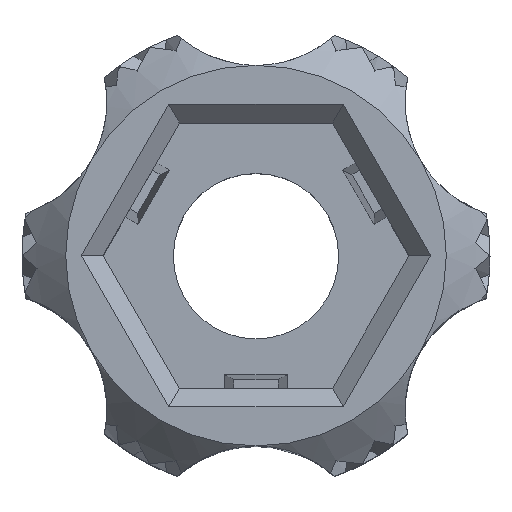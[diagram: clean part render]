
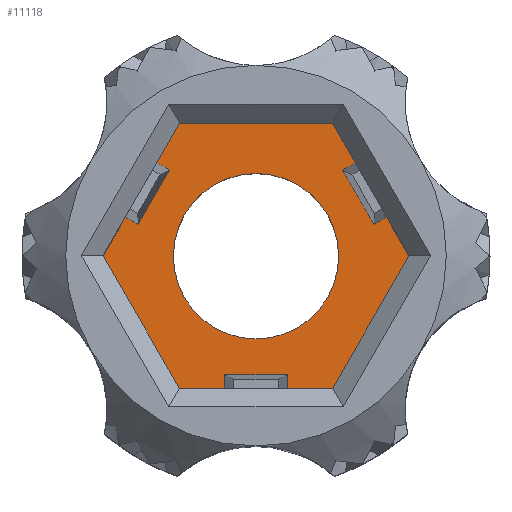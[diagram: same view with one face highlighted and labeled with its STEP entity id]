
A CAD part, top view. The second image highlights one B-rep face of the part: STEP entity #11118.
In plain terms, the highlighted planar face has unit normal (0, 0, 1).
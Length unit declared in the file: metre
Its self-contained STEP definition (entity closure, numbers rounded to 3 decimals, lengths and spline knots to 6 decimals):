
#733=LINE('',#18515,#963);
#737=LINE('',#18523,#967);
#740=LINE('',#18529,#970);
#743=LINE('',#18535,#973);
#747=LINE('',#18543,#977);
#750=LINE('',#18549,#980);
#753=LINE('',#18555,#983);
#757=LINE('',#18563,#987);
#759=LINE('',#18566,#989);
#760=LINE('',#18568,#990);
#761=LINE('',#18570,#991);
#762=LINE('',#18572,#992);
#763=LINE('',#18573,#993);
#764=LINE('',#18575,#994);
#765=LINE('',#18577,#995);
#766=LINE('',#18578,#996);
#767=LINE('',#18580,#997);
#768=LINE('',#18582,#998);
#963=VECTOR('',#12366,1.);
#967=VECTOR('',#12370,1.);
#970=VECTOR('',#12375,1.);
#973=VECTOR('',#12380,1.);
#977=VECTOR('',#12384,1.);
#980=VECTOR('',#12389,1.);
#983=VECTOR('',#12394,1.);
#987=VECTOR('',#12398,1.);
#989=VECTOR('',#12402,1.);
#990=VECTOR('',#12405,1.);
#991=VECTOR('',#12406,1.);
#992=VECTOR('',#12407,1.);
#993=VECTOR('',#12408,1.);
#994=VECTOR('',#12409,1.);
#995=VECTOR('',#12410,1.);
#996=VECTOR('',#12411,1.);
#997=VECTOR('',#12412,1.);
#998=VECTOR('',#12413,1.);
#1853=PLANE('',#11883);
#1951=CIRCLE('',#11875,0.00265);
#2846=ORIENTED_EDGE('',*,*,#6306,.F.);
#2847=ORIENTED_EDGE('',*,*,#6307,.T.);
#2848=ORIENTED_EDGE('',*,*,#6308,.T.);
#2849=ORIENTED_EDGE('',*,*,#6289,.T.);
#2850=ORIENTED_EDGE('',*,*,#6296,.T.);
#2851=ORIENTED_EDGE('',*,*,#6303,.T.);
#2852=ORIENTED_EDGE('',*,*,#6309,.F.);
#2853=ORIENTED_EDGE('',*,*,#6310,.T.);
#2854=ORIENTED_EDGE('',*,*,#6311,.T.);
#2855=ORIENTED_EDGE('',*,*,#6299,.T.);
#2856=ORIENTED_EDGE('',*,*,#6305,.T.);
#2857=ORIENTED_EDGE('',*,*,#6283,.T.);
#2858=ORIENTED_EDGE('',*,*,#6312,.F.);
#2859=ORIENTED_EDGE('',*,*,#6313,.T.);
#2860=ORIENTED_EDGE('',*,*,#6314,.T.);
#2861=ORIENTED_EDGE('',*,*,#6279,.T.);
#2862=ORIENTED_EDGE('',*,*,#6286,.T.);
#2863=ORIENTED_EDGE('',*,*,#6293,.T.);
#2864=ORIENTED_EDGE('',*,*,#6269,.F.);
#6269=EDGE_CURVE('',#7922,#7922,#1951,.T.);
#6279=EDGE_CURVE('',#7933,#7932,#733,.T.);
#6283=EDGE_CURVE('',#7929,#7936,#737,.T.);
#6286=EDGE_CURVE('',#7932,#7938,#740,.T.);
#6289=EDGE_CURVE('',#7941,#7940,#743,.T.);
#6293=EDGE_CURVE('',#7938,#7944,#747,.T.);
#6296=EDGE_CURVE('',#7940,#7946,#750,.T.);
#6299=EDGE_CURVE('',#7949,#7948,#753,.T.);
#6303=EDGE_CURVE('',#7946,#7952,#757,.T.);
#6305=EDGE_CURVE('',#7948,#7929,#759,.T.);
#6306=EDGE_CURVE('',#7953,#7944,#760,.T.);
#6307=EDGE_CURVE('',#7953,#7954,#761,.T.);
#6308=EDGE_CURVE('',#7954,#7941,#762,.T.);
#6309=EDGE_CURVE('',#7955,#7952,#763,.T.);
#6310=EDGE_CURVE('',#7955,#7956,#764,.T.);
#6311=EDGE_CURVE('',#7956,#7949,#765,.T.);
#6312=EDGE_CURVE('',#7957,#7936,#766,.T.);
#6313=EDGE_CURVE('',#7957,#7958,#767,.T.);
#6314=EDGE_CURVE('',#7958,#7933,#768,.T.);
#7922=VERTEX_POINT('',#18493);
#7929=VERTEX_POINT('',#18509);
#7932=VERTEX_POINT('',#18514);
#7933=VERTEX_POINT('',#18516);
#7936=VERTEX_POINT('',#18522);
#7938=VERTEX_POINT('',#18528);
#7940=VERTEX_POINT('',#18534);
#7941=VERTEX_POINT('',#18536);
#7944=VERTEX_POINT('',#18542);
#7946=VERTEX_POINT('',#18548);
#7948=VERTEX_POINT('',#18554);
#7949=VERTEX_POINT('',#18556);
#7952=VERTEX_POINT('',#18562);
#7953=VERTEX_POINT('',#18569);
#7954=VERTEX_POINT('',#18571);
#7955=VERTEX_POINT('',#18574);
#7956=VERTEX_POINT('',#18576);
#7957=VERTEX_POINT('',#18579);
#7958=VERTEX_POINT('',#18581);
#9453=EDGE_LOOP('',(#2846,#2847,#2848,#2849,#2850,#2851,#2852,#2853,#2854,
#2855,#2856,#2857,#2858,#2859,#2860,#2861,#2862,#2863));
#9454=EDGE_LOOP('',(#2864));
#10281=FACE_BOUND('',#9453,.T.);
#10282=FACE_BOUND('',#9454,.T.);
#11118=ADVANCED_FACE('',(#10281,#10282),#1853,.T.);
#11875=AXIS2_PLACEMENT_3D('',#18492,#12351,#12352);
#11883=AXIS2_PLACEMENT_3D('',#18567,#12403,#12404);
#12351=DIRECTION('',(0.,0.,1.));
#12352=DIRECTION('',(1.,0.,0.));
#12366=DIRECTION('',(-0.5,0.866,0.));
#12370=DIRECTION('',(-0.5,0.866,0.));
#12375=DIRECTION('',(-1.,0.,0.));
#12380=DIRECTION('',(-0.5,-0.866,0.));
#12384=DIRECTION('',(-0.5,-0.866,0.));
#12389=DIRECTION('',(0.5,-0.866,0.));
#12394=DIRECTION('',(1.,0.,0.));
#12398=DIRECTION('',(1.,0.,0.));
#12402=DIRECTION('',(0.5,0.866,0.));
#12403=DIRECTION('',(0.,0.,1.));
#12404=DIRECTION('',(1.,0.,0.));
#12405=DIRECTION('',(-0.866,0.5,0.));
#12406=DIRECTION('',(-0.5,-0.866,0.));
#12407=DIRECTION('',(-0.866,0.5,0.));
#12408=DIRECTION('',(0.,-1.,0.));
#12409=DIRECTION('',(1.,0.,0.));
#12410=DIRECTION('',(0.,-1.,0.));
#12411=DIRECTION('',(0.866,0.5,0.));
#12412=DIRECTION('',(-0.5,0.866,0.));
#12413=DIRECTION('',(0.866,0.5,0.));
#18492=CARTESIAN_POINT('',(0.,0.,0.002));
#18493=CARTESIAN_POINT('',(0.00265,0.,0.002));
#18509=CARTESIAN_POINT('',(0.004907,0.,0.002));
#18514=CARTESIAN_POINT('',(0.002454,0.00425,0.002));
#18515=CARTESIAN_POINT('',(0.003681,0.002125,0.002));
#18516=CARTESIAN_POINT('',(0.003181,0.002991,0.002));
#18522=CARTESIAN_POINT('',(0.004181,0.001259,0.002));
#18523=CARTESIAN_POINT('',(0.003681,0.002125,0.002));
#18528=CARTESIAN_POINT('',(-0.002454,0.00425,0.002));
#18529=CARTESIAN_POINT('',(0.,0.00425,0.002));
#18534=CARTESIAN_POINT('',(-0.004907,0.,0.002));
#18535=CARTESIAN_POINT('',(-0.003681,0.002125,0.002));
#18536=CARTESIAN_POINT('',(-0.004181,0.001259,0.002));
#18542=CARTESIAN_POINT('',(-0.003181,0.002991,0.002));
#18543=CARTESIAN_POINT('',(-0.003681,0.002125,0.002));
#18548=CARTESIAN_POINT('',(-0.002454,-0.00425,0.002));
#18549=CARTESIAN_POINT('',(-0.003681,-0.002125,0.002));
#18554=CARTESIAN_POINT('',(0.002454,-0.00425,0.002));
#18555=CARTESIAN_POINT('',(0.,-0.00425,0.002));
#18556=CARTESIAN_POINT('',(0.001,-0.00425,0.002));
#18562=CARTESIAN_POINT('',(-0.001,-0.00425,0.002));
#18563=CARTESIAN_POINT('',(0.,-0.00425,0.002));
#18566=CARTESIAN_POINT('',(0.003681,-0.002125,0.002));
#18567=CARTESIAN_POINT('',(0.,0.,0.002));
#18568=CARTESIAN_POINT('',(-0.003033,0.002906,0.002));
#18569=CARTESIAN_POINT('',(-0.002783,0.002762,0.002));
#18570=CARTESIAN_POINT('',(-0.003283,0.001895,0.002));
#18571=CARTESIAN_POINT('',(-0.003783,0.001029,0.002));
#18572=CARTESIAN_POINT('',(-0.004033,0.001173,0.002));
#18573=CARTESIAN_POINT('',(-0.001,-0.004079,0.002));
#18574=CARTESIAN_POINT('',(-0.001,-0.003791,0.002));
#18575=CARTESIAN_POINT('',(0.,-0.003791,0.002));
#18576=CARTESIAN_POINT('',(0.001,-0.003791,0.002));
#18577=CARTESIAN_POINT('',(0.001,-0.004079,0.002));
#18578=CARTESIAN_POINT('',(0.004033,0.001173,0.002));
#18579=CARTESIAN_POINT('',(0.003783,0.001029,0.002));
#18580=CARTESIAN_POINT('',(0.003283,0.001895,0.002));
#18581=CARTESIAN_POINT('',(0.002783,0.002762,0.002));
#18582=CARTESIAN_POINT('',(0.003033,0.002906,0.002));
